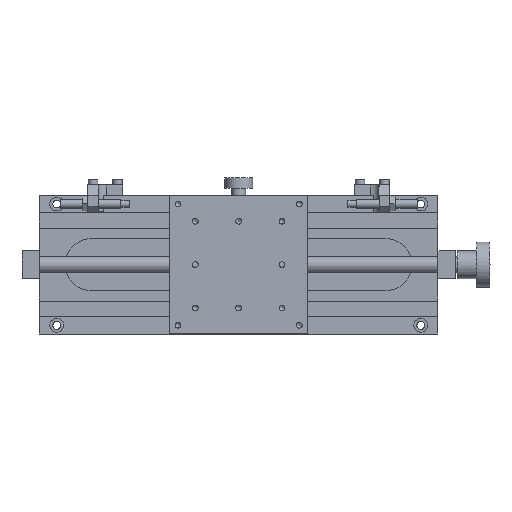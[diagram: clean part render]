
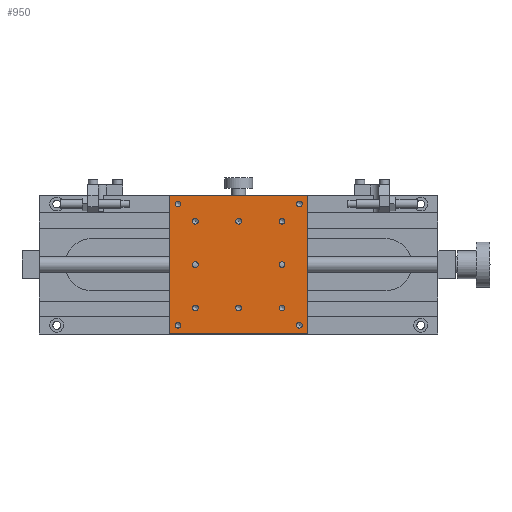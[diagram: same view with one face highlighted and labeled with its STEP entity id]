
A CAD part, top view. The second image highlights one B-rep face of the part: STEP entity #950.
In plain terms, the highlighted planar face has unit normal (0, 0, 1).
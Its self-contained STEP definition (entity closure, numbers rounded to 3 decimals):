
#950 = ADVANCED_FACE( '', ( #2053, #2054, #2055, #2056, #2057, #2058, #2059, #2060, #2061, #2062, #2063, #2064, #2065 ), #2066, .T. );
#2053 = FACE_BOUND( '', #3185, .T. );
#2054 = FACE_BOUND( '', #3186, .T. );
#2055 = FACE_BOUND( '', #3187, .T. );
#2056 = FACE_BOUND( '', #3188, .T. );
#2057 = FACE_BOUND( '', #3189, .T. );
#2058 = FACE_BOUND( '', #3190, .T. );
#2059 = FACE_BOUND( '', #3191, .T. );
#2060 = FACE_BOUND( '', #3192, .T. );
#2061 = FACE_BOUND( '', #3193, .T. );
#2062 = FACE_BOUND( '', #3194, .T. );
#2063 = FACE_BOUND( '', #3195, .T. );
#2064 = FACE_BOUND( '', #3196, .T. );
#2065 = FACE_OUTER_BOUND( '', #3197, .T. );
#2066 = PLANE( '', #3198 );
#3185 = EDGE_LOOP( '', ( #5497 ) );
#3186 = EDGE_LOOP( '', ( #5498 ) );
#3187 = EDGE_LOOP( '', ( #5499 ) );
#3188 = EDGE_LOOP( '', ( #5500 ) );
#3189 = EDGE_LOOP( '', ( #5501 ) );
#3190 = EDGE_LOOP( '', ( #5502 ) );
#3191 = EDGE_LOOP( '', ( #5503 ) );
#3192 = EDGE_LOOP( '', ( #5504 ) );
#3193 = EDGE_LOOP( '', ( #5505 ) );
#3194 = EDGE_LOOP( '', ( #5506 ) );
#3195 = EDGE_LOOP( '', ( #5507 ) );
#3196 = EDGE_LOOP( '', ( #5508 ) );
#3197 = EDGE_LOOP( '', ( #5509, #5510, #5511, #5512 ) );
#3198 = AXIS2_PLACEMENT_3D( '', #5513, #5514, #5515 );
#5497 = ORIENTED_EDGE( '', *, *, #5965, .T. );
#5498 = ORIENTED_EDGE( '', *, *, #6459, .T. );
#5499 = ORIENTED_EDGE( '', *, *, #6116, .T. );
#5500 = ORIENTED_EDGE( '', *, *, #6311, .T. );
#5501 = ORIENTED_EDGE( '', *, *, #5781, .T. );
#5502 = ORIENTED_EDGE( '', *, *, #6222, .T. );
#5503 = ORIENTED_EDGE( '', *, *, #6229, .T. );
#5504 = ORIENTED_EDGE( '', *, *, #6473, .T. );
#5505 = ORIENTED_EDGE( '', *, *, #6432, .T. );
#5506 = ORIENTED_EDGE( '', *, *, #6437, .T. );
#5507 = ORIENTED_EDGE( '', *, *, #6245, .T. );
#5508 = ORIENTED_EDGE( '', *, *, #6262, .T. );
#5509 = ORIENTED_EDGE( '', *, *, #5904, .F. );
#5510 = ORIENTED_EDGE( '', *, *, #6144, .F. );
#5511 = ORIENTED_EDGE( '', *, *, #6051, .T. );
#5512 = ORIENTED_EDGE( '', *, *, #6457, .F. );
#5513 = CARTESIAN_POINT( '', ( 0., 0., 30. ) );
#5514 = DIRECTION( '', ( 0., 0., 1. ) );
#5515 = DIRECTION( '', ( 1., 0., 0. ) );
#5781 = EDGE_CURVE( '', #6802, #6802, #6803, .T. );
#5904 = EDGE_CURVE( '', #6997, #6992, #6999, .T. );
#5965 = EDGE_CURVE( '', #7089, #7089, #7090, .T. );
#6051 = EDGE_CURVE( '', #7217, #7215, #7218, .T. );
#6116 = EDGE_CURVE( '', #7314, #7314, #7315, .T. );
#6144 = EDGE_CURVE( '', #7217, #6997, #7359, .T. );
#6222 = EDGE_CURVE( '', #7463, #7463, #7464, .T. );
#6229 = EDGE_CURVE( '', #7472, #7472, #7473, .T. );
#6245 = EDGE_CURVE( '', #7497, #7497, #7498, .T. );
#6262 = EDGE_CURVE( '', #7520, #7520, #7521, .T. );
#6311 = EDGE_CURVE( '', #7586, #7586, #7587, .T. );
#6432 = EDGE_CURVE( '', #7734, #7734, #7735, .T. );
#6437 = EDGE_CURVE( '', #7739, #7739, #7740, .T. );
#6457 = EDGE_CURVE( '', #6992, #7215, #7761, .T. );
#6459 = EDGE_CURVE( '', #7763, #7763, #7764, .T. );
#6473 = EDGE_CURVE( '', #7778, #7778, #7779, .T. );
#6802 = VERTEX_POINT( '', #8189 );
#6803 = CIRCLE( '', #8190, 1.65 );
#6992 = VERTEX_POINT( '', #8440 );
#6997 = VERTEX_POINT( '', #8447 );
#6999 = LINE( '', #8450, #8451 );
#7089 = VERTEX_POINT( '', #8575 );
#7090 = CIRCLE( '', #8576, 1.65 );
#7215 = VERTEX_POINT( '', #8752 );
#7217 = VERTEX_POINT( '', #8755 );
#7218 = LINE( '', #8756, #8757 );
#7314 = VERTEX_POINT( '', #8887 );
#7315 = CIRCLE( '', #8888, 1.65 );
#7359 = LINE( '', #8941, #8942 );
#7463 = VERTEX_POINT( '', #9077 );
#7464 = CIRCLE( '', #9078, 1.65 );
#7472 = VERTEX_POINT( '', #9088 );
#7473 = CIRCLE( '', #9089, 1.65 );
#7497 = VERTEX_POINT( '', #9117 );
#7498 = CIRCLE( '', #9118, 1.65 );
#7520 = VERTEX_POINT( '', #9143 );
#7521 = CIRCLE( '', #9144, 1.65 );
#7586 = VERTEX_POINT( '', #9227 );
#7587 = CIRCLE( '', #9228, 1.65 );
#7734 = VERTEX_POINT( '', #9423 );
#7735 = CIRCLE( '', #9424, 1.65 );
#7739 = VERTEX_POINT( '', #9428 );
#7740 = CIRCLE( '', #9429, 1.65 );
#7761 = LINE( '', #9457, #9458 );
#7763 = VERTEX_POINT( '', #9460 );
#7764 = CIRCLE( '', #9461, 1.65 );
#7778 = VERTEX_POINT( '', #9481 );
#7779 = CIRCLE( '', #9482, 1.65 );
#8189 = CARTESIAN_POINT( '', ( 25., -1.65, 30. ) );
#8190 = AXIS2_PLACEMENT_3D( '', #9739, #9740, #9741 );
#8440 = CARTESIAN_POINT( '', ( -40., -40., 30. ) );
#8447 = CARTESIAN_POINT( '', ( 40., -40., 30. ) );
#8450 = CARTESIAN_POINT( '', ( 0., -40., 30. ) );
#8451 = VECTOR( '', #9887, 1000. );
#8575 = CARTESIAN_POINT( '', ( -25., -1.65, 30. ) );
#8576 = AXIS2_PLACEMENT_3D( '', #9952, #9953, #9954 );
#8752 = CARTESIAN_POINT( '', ( -40., 40., 30. ) );
#8755 = CARTESIAN_POINT( '', ( 40., 40., 30. ) );
#8756 = CARTESIAN_POINT( '', ( 0., 40., 30. ) );
#8757 = VECTOR( '', #10034, 1000. );
#8887 = CARTESIAN_POINT( '', ( 0., 23.35, 30. ) );
#8888 = AXIS2_PLACEMENT_3D( '', #10102, #10103, #10104 );
#8941 = CARTESIAN_POINT( '', ( 40., 0., 30. ) );
#8942 = VECTOR( '', #10144, 1000. );
#9077 = CARTESIAN_POINT( '', ( 25., -26.65, 30. ) );
#9078 = AXIS2_PLACEMENT_3D( '', #10224, #10225, #10226 );
#9088 = CARTESIAN_POINT( '', ( 0., -26.65, 30. ) );
#9089 = AXIS2_PLACEMENT_3D( '', #10232, #10233, #10234 );
#9117 = CARTESIAN_POINT( '', ( 35., -36.65, 30. ) );
#9118 = AXIS2_PLACEMENT_3D( '', #10260, #10261, #10262 );
#9143 = CARTESIAN_POINT( '', ( -35., -36.65, 30. ) );
#9144 = AXIS2_PLACEMENT_3D( '', #10278, #10279, #10280 );
#9227 = CARTESIAN_POINT( '', ( 25., 23.35, 30. ) );
#9228 = AXIS2_PLACEMENT_3D( '', #10326, #10327, #10328 );
#9423 = CARTESIAN_POINT( '', ( -35., 33.35, 30. ) );
#9424 = AXIS2_PLACEMENT_3D( '', #10419, #10420, #10421 );
#9428 = CARTESIAN_POINT( '', ( 35., 33.35, 30. ) );
#9429 = AXIS2_PLACEMENT_3D( '', #10422, #10423, #10424 );
#9457 = CARTESIAN_POINT( '', ( -40., 0., 30. ) );
#9458 = VECTOR( '', #10432, 1000. );
#9460 = CARTESIAN_POINT( '', ( -25., 23.35, 30. ) );
#9461 = AXIS2_PLACEMENT_3D( '', #10433, #10434, #10435 );
#9481 = CARTESIAN_POINT( '', ( -25., -26.65, 30. ) );
#9482 = AXIS2_PLACEMENT_3D( '', #10442, #10443, #10444 );
#9739 = CARTESIAN_POINT( '', ( 25., 0., 30. ) );
#9740 = DIRECTION( '', ( 0., 0., -1. ) );
#9741 = DIRECTION( '', ( 0., -1., 0. ) );
#9887 = DIRECTION( '', ( -1., 0., 0. ) );
#9952 = CARTESIAN_POINT( '', ( -25., 0., 30. ) );
#9953 = DIRECTION( '', ( 0., 0., -1. ) );
#9954 = DIRECTION( '', ( 0., -1., 0. ) );
#10034 = DIRECTION( '', ( -1., 0., 0. ) );
#10102 = CARTESIAN_POINT( '', ( 0., 25., 30. ) );
#10103 = DIRECTION( '', ( 0., 0., -1. ) );
#10104 = DIRECTION( '', ( 0., -1., 0. ) );
#10144 = DIRECTION( '', ( 0., -1., 0. ) );
#10224 = CARTESIAN_POINT( '', ( 25., -25., 30. ) );
#10225 = DIRECTION( '', ( 0., 0., -1. ) );
#10226 = DIRECTION( '', ( 0., -1., 0. ) );
#10232 = CARTESIAN_POINT( '', ( 0., -25., 30. ) );
#10233 = DIRECTION( '', ( 0., 0., -1. ) );
#10234 = DIRECTION( '', ( 0., -1., 0. ) );
#10260 = CARTESIAN_POINT( '', ( 35., -35., 30. ) );
#10261 = DIRECTION( '', ( 0., 0., -1. ) );
#10262 = DIRECTION( '', ( 0., -1., 0. ) );
#10278 = CARTESIAN_POINT( '', ( -35., -35., 30. ) );
#10279 = DIRECTION( '', ( 0., 0., -1. ) );
#10280 = DIRECTION( '', ( 0., -1., 0. ) );
#10326 = CARTESIAN_POINT( '', ( 25., 25., 30. ) );
#10327 = DIRECTION( '', ( 0., 0., -1. ) );
#10328 = DIRECTION( '', ( 0., -1., 0. ) );
#10419 = CARTESIAN_POINT( '', ( -35., 35., 30. ) );
#10420 = DIRECTION( '', ( 0., 0., -1. ) );
#10421 = DIRECTION( '', ( 0., -1., 0. ) );
#10422 = CARTESIAN_POINT( '', ( 35., 35., 30. ) );
#10423 = DIRECTION( '', ( 0., 0., -1. ) );
#10424 = DIRECTION( '', ( 0., -1., 0. ) );
#10432 = DIRECTION( '', ( 0., 1., 0. ) );
#10433 = CARTESIAN_POINT( '', ( -25., 25., 30. ) );
#10434 = DIRECTION( '', ( 0., 0., -1. ) );
#10435 = DIRECTION( '', ( 0., -1., 0. ) );
#10442 = CARTESIAN_POINT( '', ( -25., -25., 30. ) );
#10443 = DIRECTION( '', ( 0., 0., -1. ) );
#10444 = DIRECTION( '', ( 0., -1., 0. ) );
